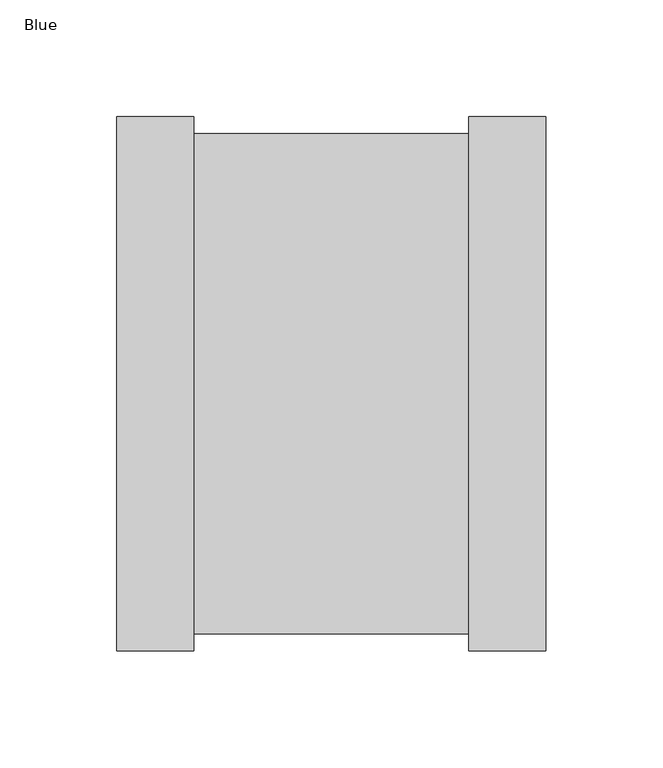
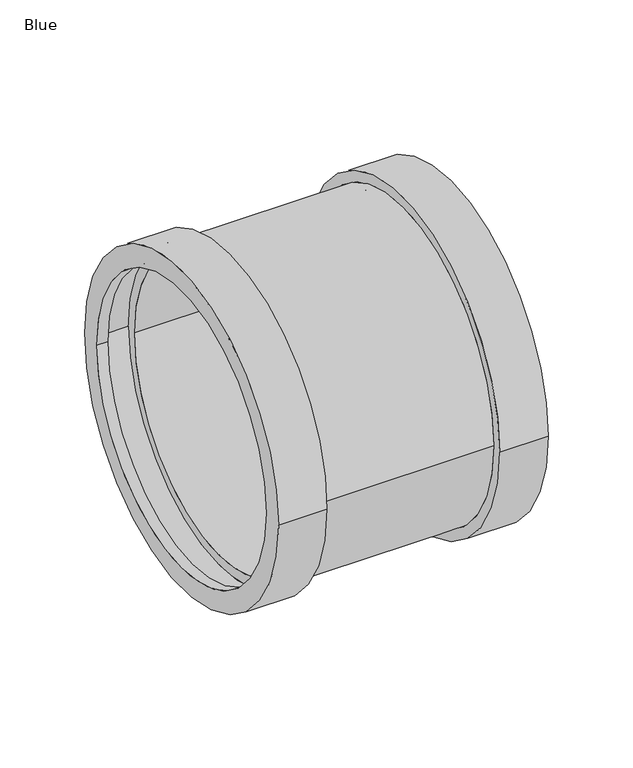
"""IFC4 building model written with IfcOpenShell, lengths in millimetres: pipe fitting geometry, AWADUKT PP Union USM : Blue."""

from ifc_helpers import new_model, si_unit, frame, origin, place, context, project, spatial, polyline, circle_curve, source, transform, mapped, element, save
from ifc_brep_helpers import plane_surface, cylinder_surface, revolved_surface, advanced_brep


def blue_d79e372c(model_context):
    return source(origin(), model_context, "Body", "AdvancedBrep", [
        advanced_brep(
        [(-66.375, 100.0, 0.0), (-66.375, -100.0, 0.0), (66.375, -100.0, 0.0), (66.375, 100.0, 0.0), (-84.75, 107.35, 0.0), (-84.75, -107.35, 0.0), (-66.375, -107.35, 0.0), (-66.375, 107.35, 0.0), (-92.1, 100.0, 0.0), (-92.1, -100.0, 0.0), (-84.75, -100.0, 0.0), (-84.75, 100.0, 0.0), (-59.025, 114.7, 0.0), (-59.025, -114.7, 0.0), (-92.1, -114.7, 0.0), (-92.1, 114.7, 0.0), (59.025, 107.35, 0.0), (59.025, -107.35, 0.0), (-59.025, -107.35, 0.0), (-59.025, 107.35, 0.0), (92.1, 114.7, 0.0), (92.1, -114.7, 0.0), (59.025, -114.7, 0.0), (59.025, 114.7, 0.0), (84.75, 100.0, 0.0), (84.75, -100.0, 0.0), (92.1, -100.0, 0.0), (92.1, 100.0, 0.0), (66.375, 107.35, 0.0), (66.375, -107.35, 0.0), (84.75, -107.35, 0.0), (84.75, 107.35, 0.0)],
        [
            (0, 1, circle_curve(frame((-66.375, 0.0, 0.0), z_axis=(-1.0, 0.0, 0.0), x_axis=(0.0, -1.0, 0.0)), 100.0)),
            (1, 2),
            (2, 3, circle_curve(frame((66.375, 0.0, 0.0), z_axis=(1.0, 0.0, 0.0), x_axis=(0.0, -1.0, 0.0)), 100.0)),
            (3, 0),
            (4, 5, circle_curve(frame((-84.75, 0.0, 0.0), z_axis=(-1.0, 0.0, 0.0), x_axis=(0.0, -1.0, 0.0)), 107.35)),
            (5, 6),
            (6, 7, circle_curve(frame((-66.375, 0.0, 0.0), z_axis=(1.0, 0.0, 0.0), x_axis=(0.0, -1.0, 0.0)), 107.35)),
            (7, 4),
            (8, 9, circle_curve(frame((-92.1, 0.0, 0.0), z_axis=(-1.0, 0.0, 0.0), x_axis=(0.0, -1.0, 0.0)), 100.0)),
            (9, 10),
            (10, 11, circle_curve(frame((-84.75, 0.0, 0.0), z_axis=(1.0, 0.0, 0.0), x_axis=(0.0, -1.0, 0.0)), 100.0)),
            (11, 8),
            (12, 13, circle_curve(frame((-59.025, 0.0, 0.0), z_axis=(-1.0, 0.0, 0.0), x_axis=(0.0, -1.0, 0.0)), 114.7)),
            (13, 14),
            (14, 15, circle_curve(frame((-92.1, 0.0, 0.0), z_axis=(1.0, 0.0, 0.0), x_axis=(0.0, -1.0, 0.0)), 114.7)),
            (15, 12),
            (16, 17, circle_curve(frame((59.025, 0.0, 0.0), z_axis=(-1.0, 0.0, 0.0), x_axis=(0.0, -1.0, 0.0)), 107.35)),
            (17, 18),
            (18, 19, circle_curve(frame((-59.025, 0.0, 0.0), z_axis=(1.0, 0.0, 0.0), x_axis=(0.0, -1.0, 0.0)), 107.35)),
            (19, 16),
            (20, 21, circle_curve(frame((92.1, 0.0, 0.0), z_axis=(-1.0, 0.0, 0.0), x_axis=(0.0, -1.0, 0.0)), 114.7)),
            (21, 22),
            (22, 23, circle_curve(frame((59.025, 0.0, 0.0), z_axis=(1.0, 0.0, 0.0), x_axis=(0.0, -1.0, 0.0)), 114.7)),
            (23, 20),
            (24, 25, circle_curve(frame((84.75, 0.0, 0.0), z_axis=(-1.0, 0.0, 0.0), x_axis=(0.0, -1.0, 0.0)), 100.0)),
            (25, 26),
            (26, 27, circle_curve(frame((92.1, 0.0, 0.0), z_axis=(1.0, 0.0, 0.0), x_axis=(0.0, -1.0, 0.0)), 100.0)),
            (27, 24),
            (28, 29, circle_curve(frame((66.375, 0.0, 0.0), z_axis=(-1.0, 0.0, 0.0), x_axis=(0.0, -1.0, 0.0)), 107.35)),
            (29, 30),
            (30, 31, circle_curve(frame((84.75, 0.0, 0.0), z_axis=(1.0, 0.0, 0.0), x_axis=(0.0, -1.0, 0.0)), 107.35)),
            (31, 28),
            (1, 0, circle_curve(frame((-66.375, 0.0, 0.0), z_axis=(-1.0, 0.0, 0.0), x_axis=(0.0, 1.0, 0.0)), 100.0)),
            (3, 2, circle_curve(frame((66.375, 0.0, 0.0), z_axis=(1.0, 0.0, 0.0), x_axis=(0.0, 1.0, 0.0)), 100.0)),
            (6, 7, circle_curve(frame((-66.375, 0.0, 0.0), z_axis=(-1.0, 0.0, 0.0), x_axis=(0.0, 1.0, 0.0)), 107.35)),
            (5, 4, circle_curve(frame((-84.75, 0.0, 0.0), z_axis=(-1.0, 0.0, 0.0), x_axis=(0.0, 1.0, 0.0)), 107.35)),
            (10, 11, circle_curve(frame((-84.75, 0.0, 0.0), z_axis=(-1.0, 0.0, 0.0), x_axis=(0.0, 1.0, 0.0)), 100.0)),
            (9, 8, circle_curve(frame((-92.1, 0.0, 0.0), z_axis=(-1.0, 0.0, 0.0), x_axis=(0.0, 1.0, 0.0)), 100.0)),
            (14, 15, circle_curve(frame((-92.1, 0.0, 0.0), z_axis=(-1.0, 0.0, 0.0), x_axis=(0.0, 1.0, 0.0)), 114.7)),
            (13, 12, circle_curve(frame((-59.025, 0.0, 0.0), z_axis=(-1.0, 0.0, 0.0), x_axis=(0.0, 1.0, 0.0)), 114.7)),
            (18, 19, circle_curve(frame((-59.025, 0.0, 0.0), z_axis=(-1.0, 0.0, 0.0), x_axis=(0.0, 1.0, 0.0)), 107.35)),
            (17, 16, circle_curve(frame((59.025, 0.0, 0.0), z_axis=(-1.0, 0.0, 0.0), x_axis=(0.0, 1.0, 0.0)), 107.35)),
            (22, 23, circle_curve(frame((59.025, 0.0, 0.0), z_axis=(-1.0, 0.0, 0.0), x_axis=(0.0, 1.0, 0.0)), 114.7)),
            (21, 20, circle_curve(frame((92.1, 0.0, 0.0), z_axis=(-1.0, 0.0, 0.0), x_axis=(0.0, 1.0, 0.0)), 114.7)),
            (26, 27, circle_curve(frame((92.1, 0.0, 0.0), z_axis=(-1.0, 0.0, 0.0), x_axis=(0.0, 1.0, 0.0)), 100.0)),
            (25, 24, circle_curve(frame((84.75, 0.0, 0.0), z_axis=(-1.0, 0.0, 0.0), x_axis=(0.0, 1.0, 0.0)), 100.0)),
            (30, 31, circle_curve(frame((84.75, 0.0, 0.0), z_axis=(-1.0, 0.0, 0.0), x_axis=(0.0, 1.0, 0.0)), 107.35)),
            (29, 28, circle_curve(frame((66.375, 0.0, 0.0), z_axis=(-1.0, 0.0, 0.0), x_axis=(0.0, 1.0, 0.0)), 107.35)),
        ],
        [
            revolved_surface(polyline([(66.375, -100.0, 0.0), (-66.375, -100.0, 0.0)]), (0.0, 0.0, 0.0), (1.0, 0.0, 0.0)),
            revolved_surface(polyline([(-66.375, -107.35, 0.0), (-84.75, -107.35, 0.0)]), (0.0, 0.0, 0.0), (1.0, 0.0, 0.0)),
            revolved_surface(polyline([(-84.75, -100.0, 0.0), (-92.1, -100.0, 0.0)]), (0.0, 0.0, 0.0), (1.0, 0.0, 0.0)),
            cylinder_surface(frame((0.0, 0.0, 0.0), z_axis=(1.0, 0.0, 0.0), x_axis=(0.0, -1.0, 0.0)), 114.7),
            cylinder_surface(frame((0.0, 0.0, 0.0), z_axis=(1.0, 0.0, 0.0), x_axis=(0.0, -1.0, 0.0)), 107.35),
            revolved_surface(polyline([(92.1, -100.0, 0.0), (84.75, -100.0, 0.0)]), (0.0, 0.0, 0.0), (1.0, 0.0, 0.0)),
            revolved_surface(polyline([(84.75, -107.35, 0.0), (66.375, -107.35, 0.0)]), (0.0, 0.0, 0.0), (1.0, 0.0, 0.0)),
            revolved_surface(polyline([(66.375, 100.0, 0.0), (-66.375, 100.0, 0.0)]), (0.0, 0.0, 0.0), (1.0, 0.0, 0.0)),
            plane_surface(frame((-66.375, 0.0, 0.0), z_axis=(-1.0, 0.0, 0.0), x_axis=(0.0, 1.0, 0.0))),
            revolved_surface(polyline([(-66.375, 107.35, 0.0), (-84.75, 107.35, 0.0)]), (0.0, 0.0, 0.0), (1.0, 0.0, 0.0)),
            plane_surface(frame((-84.75, 0.0, 0.0), z_axis=(1.0, 0.0, 0.0), x_axis=(0.0, 1.0, 0.0))),
            revolved_surface(polyline([(-84.75, 100.0, 0.0), (-92.1, 100.0, 0.0)]), (0.0, 0.0, 0.0), (1.0, 0.0, 0.0)),
            plane_surface(frame((-92.1, 0.0, 0.0), z_axis=(-1.0, 0.0, 0.0), x_axis=(0.0, 1.0, 0.0))),
            cylinder_surface(frame((0.0, 0.0, 0.0), z_axis=(1.0, 0.0, 0.0), x_axis=(0.0, 1.0, 0.0)), 114.7),
            plane_surface(frame((-59.025, 0.0, 0.0), z_axis=(1.0, 0.0, 0.0), x_axis=(0.0, 1.0, 0.0))),
            cylinder_surface(frame((0.0, 0.0, 0.0), z_axis=(1.0, 0.0, 0.0), x_axis=(0.0, 1.0, 0.0)), 107.35),
            plane_surface(frame((59.025, 0.0, 0.0), z_axis=(-1.0, 0.0, 0.0), x_axis=(0.0, 1.0, 0.0))),
            plane_surface(frame((92.1, 0.0, 0.0), z_axis=(1.0, 0.0, 0.0), x_axis=(0.0, 1.0, 0.0))),
            revolved_surface(polyline([(92.1, 100.0, 0.0), (84.75, 100.0, 0.0)]), (0.0, 0.0, 0.0), (1.0, 0.0, 0.0)),
            plane_surface(frame((84.75, 0.0, 0.0), z_axis=(-1.0, 0.0, 0.0), x_axis=(0.0, 1.0, 0.0))),
            revolved_surface(polyline([(84.75, 107.35, 0.0), (66.375, 107.35, 0.0)]), (0.0, 0.0, 0.0), (1.0, 0.0, 0.0)),
            plane_surface(frame((66.375, 0.0, 0.0), z_axis=(1.0, 0.0, 0.0), x_axis=(0.0, 1.0, 0.0))),
        ],
        [
            (0, [[1, 2, 3, 4]]),
            (1, [[5, 6, 7, 8]]),
            (2, [[9, 10, 11, 12]]),
            (3, [[13, 14, 15, 16]]),
            (4, [[17, 18, 19, 20]]),
            (3, [[21, 22, 23, 24]]),
            (5, [[25, 26, 27, 28]]),
            (6, [[29, 30, 31, 32]]),
            (7, [[33, -4, 34, -2]]),
            (8, [[35, -7], [-33, -1]]),
            (9, [[36, -8, -35, -6]]),
            (10, [[-36, -5], [37, -11]]),
            (11, [[38, -12, -37, -10]]),
            (12, [[39, -15], [-38, -9]]),
            (13, [[40, -16, -39, -14]]),
            (14, [[-40, -13], [41, -19]]),
            (15, [[42, -20, -41, -18]]),
            (16, [[43, -23], [-42, -17]]),
            (13, [[44, -24, -43, -22]]),
            (17, [[-44, -21], [45, -27]]),
            (18, [[46, -28, -45, -26]]),
            (19, [[47, -31], [-46, -25]]),
            (20, [[48, -32, -47, -30]]),
            (21, [[-48, -29], [-34, -3]]),
        ],
    ),
    ])


if __name__ == "__main__":
    model = new_model("IFC4")
    model_context = context("Model", 3, world=origin())
    ifc_project = project(units=[si_unit("LENGTHUNIT", "METRE", prefix="MILLI")], contexts=[model_context])
    site = spatial("IfcSite", under=ifc_project)
    building = spatial("IfcBuilding", under=site)
    placement = place(None, origin())
    blue_shape = blue_d79e372c(model_context)
    element("IfcPipeFitting", 1, ObjectType="AWADUKT PP Union USM : Blue", at=placement, inside=building, context=model_context, shape_type="MappedRepresentation", body=[
        mapped(blue_shape, transform((0.0, 0.0, 0.0), x_axis=(1.0, 0.0, 0.0), y_axis=(0.0, 1.0, 0.0), z_axis=(0.0, 0.0, 1.0))),
    ])
    save(model, "model.ifc")
